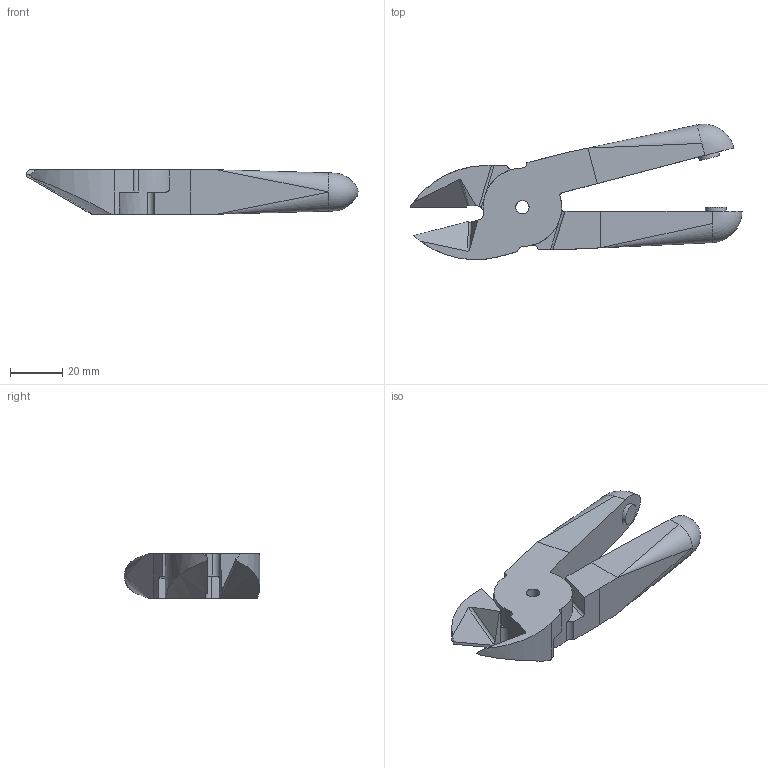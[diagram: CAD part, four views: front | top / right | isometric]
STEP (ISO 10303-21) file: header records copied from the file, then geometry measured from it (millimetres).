
FILE_DESCRIPTION(/* description */ (''),/* implementation_level */ '2;1');
FILE_NAME(/* name */ 'W:\Technik\Konstruktion\CAD-Daten\DJa\Vessel Schneidzangeneinsatz\N30AS\N30AS open.stp',/* time_stamp */ '2016-08-31T13:13:04+02:00',/* author */ ('DJansen'),/* organization */ (''),/* preprocessor_version */ 'ST-DEVELOPER v16.1',/* originating_system */ 'Autodesk Inventor 2016',/* authorisation */ '');
FILE_SCHEMA (('AUTOMOTIVE_DESIGN { 1 0 10303 214 3 1 1 }'));
Length unit declared in the file: centimetre
Products named in the file (1): N30AS Baugruppe
Bounding box: 127 x 51.81 x 17 mm (x, y, z)
Volume: 46512 mm3; surface area: 13966.4 mm2
Topology: 1 solids, 1 shells, 72 faces, 208 edges, 132 vertices
Faces by surface type: plane 44, cylinder 22, bspline 6
Full cylindrical faces by diameter (mm): 5.1 x1, 8 x2, 30 x1
Entity records: 4629 total; most frequent: CARTESIAN_POINT 2699, ORIENTED_EDGE 388, DIRECTION 368, EDGE_CURVE 194, VERTEX_POINT 130, AXIS2_PLACEMENT_3D 123, LINE 122, VECTOR 122
